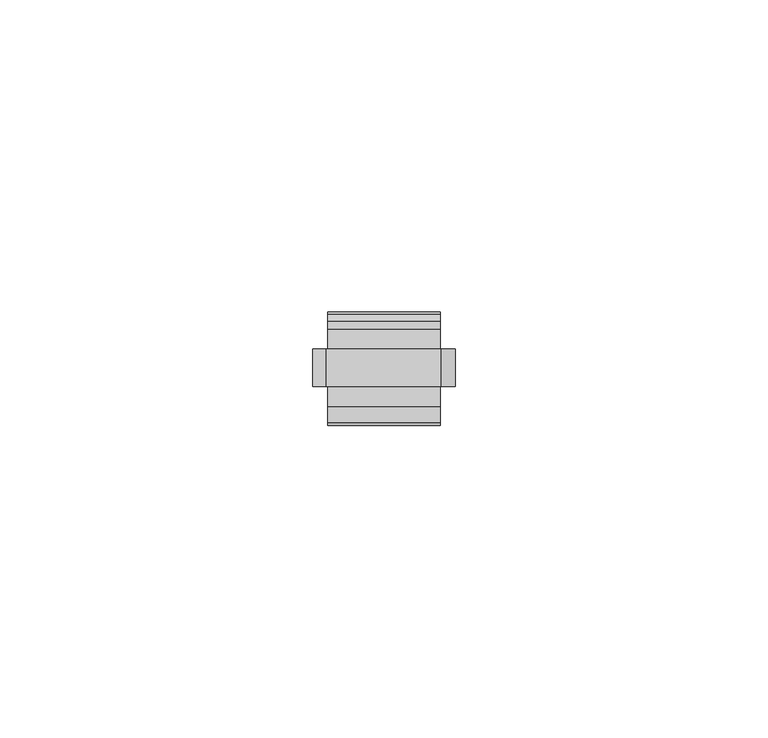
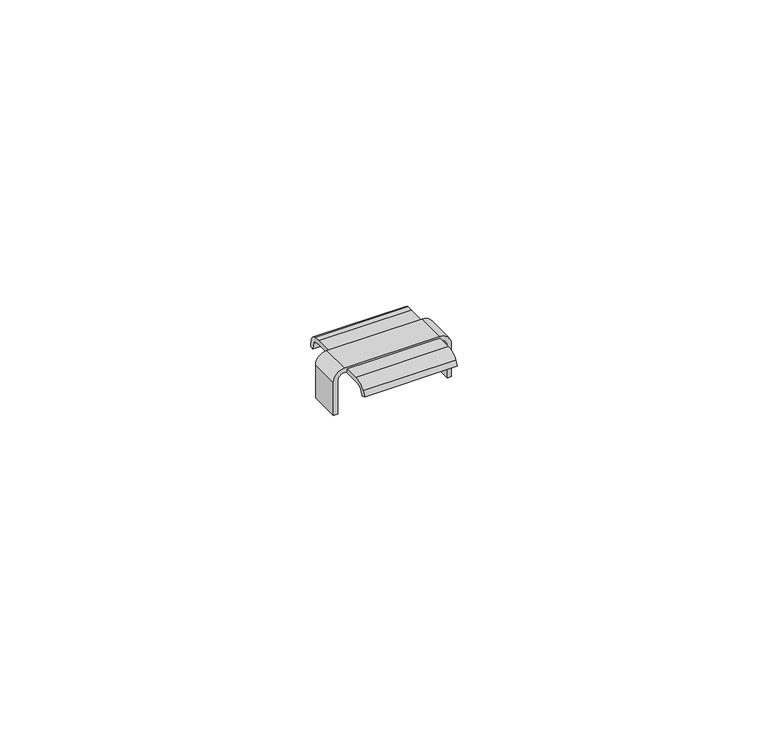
"""IFC4 building model written with IfcOpenShell, lengths in millimetres: proxy geometry, Klips blokujący : Klips blokujący."""

from ifc_helpers import new_model, si_unit, point, frame, frame_2d, origin, place, context, project, spatial, polyline, circle_curve, trimmed, segment, composite_curve, outline, extrude, source, transform, mapped, element, save


def generic_models_5d387387(model_context):
    return source(origin(), model_context, "Body", "SweptSolid", [
        extrude(outline(composite_curve([segment(polyline([(-6.0376683, -2.4439344), (-6.0384505, -1.625759), (0.7325573, -1.6198819)]), True, "CONTINUOUS"), segment(trimmed(circle_curve(frame_2d((0.7313831, -0.2670909)), 1.3527916), [point((0.7325573, -1.6198819))], [point((2.0841747, -0.2670909))], True, "CARTESIAN"), True, "CONTINUOUS"), segment(polyline([(2.0841747, -0.2670909), (2.0841747, 18.1609732)]), True, "CONTINUOUS"), segment(trimmed(circle_curve(frame_2d((0.6251733, 18.1609732)), 1.4590014), [point((2.0841747, 18.1609732))], [point((0.6264397, 19.619974))], True, "CARTESIAN"), True, "CONTINUOUS"), segment(polyline([(0.6264397, 19.619974), (-6.0384505, 19.625759), (-6.0376683, 20.4439344), (0.6651529, 20.4381614)]), True, "CONTINUOUS"), segment(trimmed(circle_curve(frame_2d((0.6632244, 18.1990382)), 2.2391241), [point((0.6651529, 20.4381614))], [point((2.9023485, 18.1990382))], False, "CARTESIAN"), True, "CONTINUOUS"), segment(polyline([(2.9023485, 18.1990382), (2.9023485, -0.2403141)]), True, "CONTINUOUS"), segment(trimmed(circle_curve(frame_2d((0.7045359, -0.2403141)), 2.1978125), [point((2.9023485, -0.2403141))], [point((0.7064289, -2.4381258))], False, "CARTESIAN"), True, "CONTINUOUS"), segment(polyline([(0.7064289, -2.4381258), (-6.0376683, -2.4439344)]), True, "CONTINUOUS")], self_intersect=False)), frame((0.0, -3.0, 0.0), z_axis=(0.0, 1.0, 0.0), x_axis=(0.0, 0.0, 1.0)), (0.0, 0.0, 1.0), 6.0),
        extrude(outline(composite_curve([segment(polyline([(-6.223191, 2.9023497), (6.2214074, 2.9023538), (7.4679552, 2.7980399)]), True, "CONTINUOUS"), segment(trimmed(circle_curve(frame_2d((6.980728, 1.1183787)), 1.7489002), [point((7.4679552, 2.7980399))], [point((8.6477845, 1.6471267))], False, "CARTESIAN"), True, "CONTINUOUS"), segment(polyline([(8.6477845, 1.6471267), (8.9031319, 0.1363719), (8.096375, 0.0), (7.8545842, 1.4308911)]), True, "CONTINUOUS"), segment(trimmed(circle_curve(frame_2d((7.1001727, 1.2476242)), 0.7763527), [point((7.8545842, 1.4308911))], [point((7.2505493, 2.009274))], True, "CARTESIAN"), True, "CONTINUOUS"), segment(polyline([(7.2505493, 2.009274), (6.2214076, 2.08418), (-6.4886324, 2.0841758)]), True, "CONTINUOUS"), segment(trimmed(circle_curve(frame_2d((-6.509681, 0.1958175)), 1.8884756), [point((-6.4886324, 2.0841758))], [point((-8.1110469, 1.1968007))], True, "CARTESIAN"), True, "CONTINUOUS"), segment(polyline([(-8.1110469, 1.1968007), (-8.482493, 0.4382728), (-9.2458012, 0.7328408), (-8.7464722, 1.7122255)]), True, "CONTINUOUS"), segment(trimmed(circle_curve(frame_2d((-6.3563602, -0.0852785)), 2.9905946), [point((-8.7464722, 1.7122255))], [point((-6.223191, 2.9023497))], False, "CARTESIAN"), True, "CONTINUOUS")], self_intersect=False)), frame((0.0, 0.0, 0.0), z_axis=(1.0, 0.0, 0.0), x_axis=(0.0, 1.0, 0.0)), (0.0, 0.0, 1.0), 18.0),
    ])


if __name__ == "__main__":
    model = new_model("IFC4")
    model_context = context("Model", 3, world=origin())
    ifc_project = project(units=[si_unit("LENGTHUNIT", "METRE", prefix="MILLI")], contexts=[model_context])
    site = spatial("IfcSite", under=ifc_project)
    building = spatial("IfcBuilding", under=site)
    placement = place(None, origin())
    generic_models_shape = generic_models_5d387387(model_context)
    element("IfcBuildingElementProxy", 1, Name="Klips blokujący : Klips blokujący", ObjectType="Klips blokujący : Klips blokujący", at=placement, inside=building, context=model_context, shape_type="MappedRepresentation", body=[
        mapped(generic_models_shape, transform((0.0, 0.0, 0.0), x_axis=(1.0, 0.0, 0.0), y_axis=(0.0, 1.0, 0.0), z_axis=(0.0, 0.0, 1.0))),
    ])
    save(model, "model.ifc")
